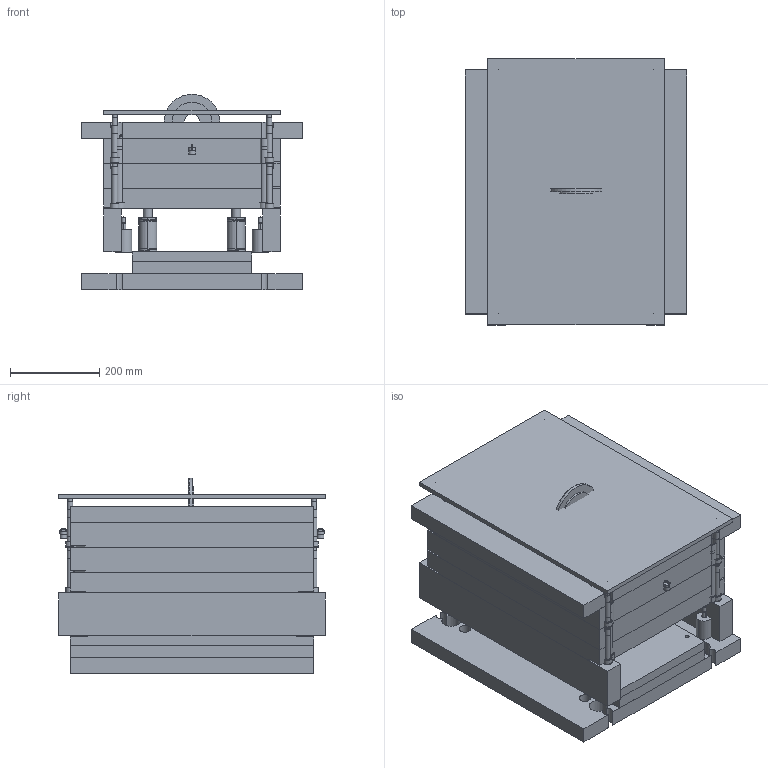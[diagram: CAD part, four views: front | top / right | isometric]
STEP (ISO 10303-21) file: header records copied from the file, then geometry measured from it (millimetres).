
FILE_DESCRIPTION(('Open CASCADE Model'),'2;1');
FILE_NAME('Open CASCADE Shape Model','2026-07-13T21:32:49',('Author'),( 'Open CASCADE'),'Open CASCADE STEP processor 7.9','Open CASCADE 7.9' ,'Unknown');
FILE_SCHEMA(('AUTOMOTIVE_DESIGN { 1 0 10303 214 1 1 1 1 }'));
Length unit declared in the file: millimetre
Products named in the file (70): mold_builder_assembly; Fixed_Half; cavity_plate; clamp_fixed; guide_pin_0; guide_pin_1; guide_pin_2; guide_pin_3; guide_bushing_0; guide_bushing_1; guide_bushing_2; guide_bushing_3; screw_top_0; screw_top_1; screw_top_2; screw_top_3; dowel_pin_0; dowel_pin_1; insulation_plate; sprue_bushing; locating_ring; gate_0; slide_1_K2528; Moving_Half; clamp_moving; support_plate; core_plate; spacer_block; support_pillar_0; support_pillar_1; support_pillar_2; support_pillar_3; screw_bot_0; screw_bot_1; screw_bot_2; screw_bot_3; cooling_channel_0; cooling_channel_1; cooling_channel_2; cooling_channel_3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
Assembly tree (69 placements, depth 3):
  mold_builder_assembly
    Fixed_Half
      cavity_plate
      clamp_fixed
      guide_pin_0
      guide_pin_1
      guide_pin_2
      guide_pin_3
      guide_bushing_0
      guide_bushing_1
      guide_bushing_2
      guide_bushing_3
      screw_top_0
      screw_top_1
      screw_top_2
      screw_top_3
      dowel_pin_0
      dowel_pin_1
      insulation_plate
      sprue_bushing
      locating_ring
      gate_0
      slide_1_K2528
    Moving_Half
      clamp_moving
      support_plate
      core_plate
      spacer_block
      support_pillar_0
      support_pillar_1
      support_pillar_2
      support_pillar_3
      screw_bot_0
      screw_bot_1
      screw_bot_2
      screw_bot_3
      cooling_channel_0
      cooling_channel_1
      cooling_channel_2
      cooling_channel_3
      cooling_channel_4
      cooling_channel_5
      cooling_channel_6
      cooling_channel_7
      cooling_channel_8
      cooling_channel_9
      cooling_uturn_0
      cooling_uturn_1
      cooling_uturn_2
      cooling_uturn_3
      cooling_uturn_4
      cooling_uturn_5
      cooling_uturn_6
      cooling_uturn_7
      cooling_uturn_8
      cooling_inlet
      cooling_outlet
      cooling_oring_inlet
      cooling_oring_outlet
    Ejection
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Bounding box: 496 x 596 x 437.5 mm (x, y, z)
Volume: 67708262.4 mm3; surface area: 5063371.8 mm2
Topology: 98 solids, 98 shells, 1759 faces, 4182 edges, 2678 vertices
Faces by surface type: plane 1124, cylinder 449, cone 125, bspline 32, torus 17, sphere 12
Full cylindrical faces by diameter (mm): 2.03 x4, 4 x5, 5.278 x4, 6 x19, 8.5 x4, 9.728 x2, 10.2 x8, 11.4 x2, 11.98 x8, 12 x18, 13.5 x8, 14 x8, 14.211 x4, 15 x2, 16 x1, 16.241 x2, 16.6 x4, 18 x20, 20 x12, 20.1 x12, 24.1 x4, 26 x8, 28 x10, 90 x1, 125 x1
Entity records: 118808 total; most frequent: CARTESIAN_POINT 33805, DIRECTION 16243, ORIENTED_EDGE 8262, PCURVE 8262, DEFINITIONAL_REPRESENTATION 8262, LINE 7695, VECTOR 7695, EDGE_CURVE 4131
